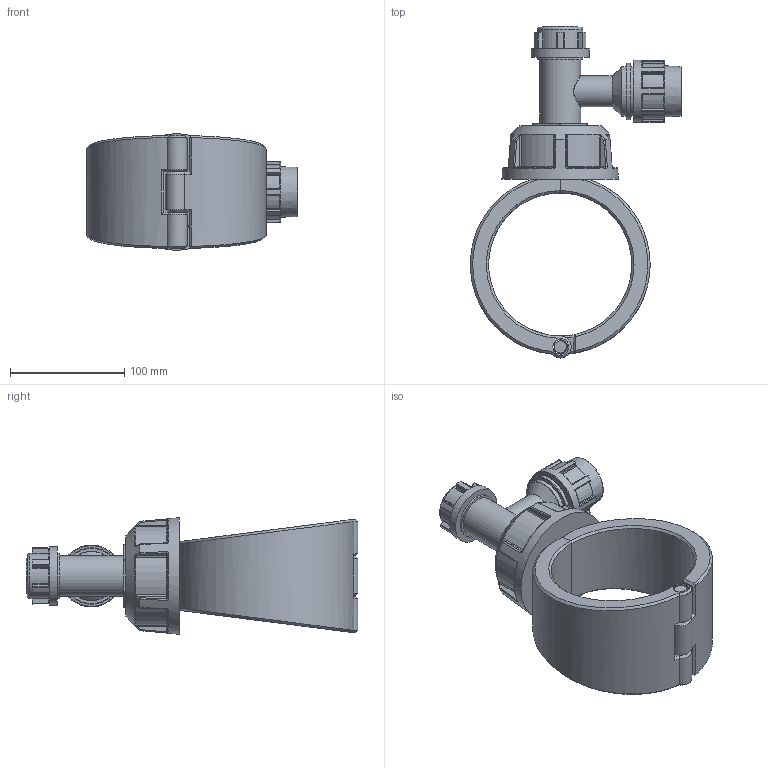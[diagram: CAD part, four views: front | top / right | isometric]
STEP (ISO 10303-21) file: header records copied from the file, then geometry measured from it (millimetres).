
FILE_DESCRIPTION(/* description */ ('Plassadle Tapper 125x25'),/* implementation_level */ '2;1');
FILE_NAME(/* name */ 'C:\Users\comp2\Dropbox\99-16-3568-Processing\Mechanical Fittings\16310\stp\163100160025_1631061600250A.stp',/* time_stamp */ '2022-02-03T11:58:20+00:00',/* author */ ('comp2'),/* organization */ (''),/* preprocessor_version */ 'ST-DEVELOPER v17.2',/* originating_system */ 'Autodesk Inventor 2019',/* authorisation */ '');
FILE_SCHEMA (('AUTOMOTIVE_DESIGN { 1 0 10303 214 3 1 1 }'));
Length unit declared in the file: millimetre
Products named in the file (1): 163100160025_1631061600250A
Bounding box: 184.45 x 290 x 102 mm (x, y, z)
Volume: 1058086.8 mm3; surface area: 152221.3 mm2
Topology: 4 solids, 4 shells, 519 faces, 1253 edges, 754 vertices
Faces by surface type: cylinder 184, plane 109, bspline 87, torus 83, sphere 40, cone 16
Full cylindrical faces by diameter (mm): 10.74 x1, 12.74 x3, 25 x1, 27 x1, 30.6 x1, 35.7 x1, 39.7 x2, 43.2 x2, 49.378 x1, 51 x1, 54 x1
Entity records: 18783 total; most frequent: CARTESIAN_POINT 7030, ORIENTED_EDGE 2508, DIRECTION 2426, EDGE_CURVE 1254, AXIS2_PLACEMENT_3D 1028, VERTEX_POINT 755, CIRCLE 563, EDGE_LOOP 537
